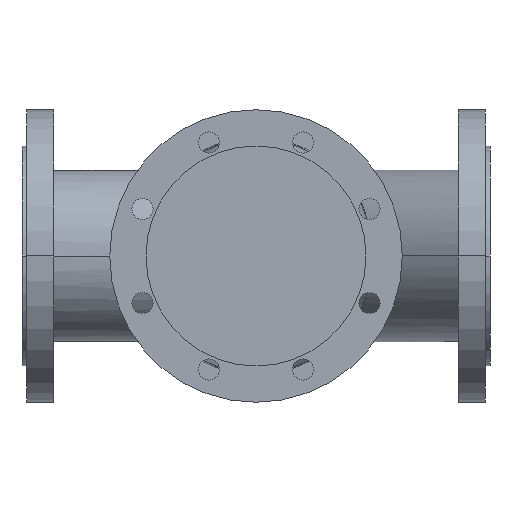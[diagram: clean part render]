
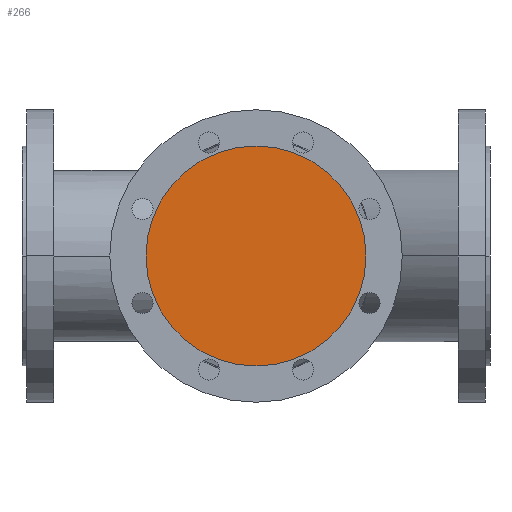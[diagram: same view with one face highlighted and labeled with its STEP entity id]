
A CAD part, front view. The second image highlights one B-rep face of the part: STEP entity #266.
In plain terms, the highlighted planar face has unit normal (0, -1, 0).
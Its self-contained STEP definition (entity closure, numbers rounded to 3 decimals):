
#266 = ADVANCED_FACE( '', ( #734 ), #735, .T. );
#734 = FACE_OUTER_BOUND( '', #1343, .T. );
#735 = PLANE( '', #1344 );
#1343 = EDGE_LOOP( '', ( #2752, #2753 ) );
#1344 = AXIS2_PLACEMENT_3D( '', #2754, #2755, #2756 );
#2752 = ORIENTED_EDGE( '', *, *, #3828, .F. );
#2753 = ORIENTED_EDGE( '', *, *, #4170, .F. );
#2754 = CARTESIAN_POINT( '', ( 247., -200., 0. ) );
#2755 = DIRECTION( '', ( 0., -1., 0. ) );
#2756 = DIRECTION( '', ( -1., 0., 0. ) );
#3828 = EDGE_CURVE( '', #4553, #4556, #4557, .T. );
#4170 = EDGE_CURVE( '', #4556, #4553, #5120, .T. );
#4553 = VERTEX_POINT( '', #5908 );
#4556 = VERTEX_POINT( '', #5912 );
#4557 = CIRCLE( '', #5913, 94. );
#5120 = CIRCLE( '', #7223, 94. );
#5908 = CARTESIAN_POINT( '', ( 294., -200., 0. ) );
#5912 = CARTESIAN_POINT( '', ( 106., -200., 0. ) );
#5913 = AXIS2_PLACEMENT_3D( '', #8039, #8040, #8041 );
#7223 = AXIS2_PLACEMENT_3D( '', #8731, #8732, #8733 );
#8039 = CARTESIAN_POINT( '', ( 200., -200., 0. ) );
#8040 = DIRECTION( '', ( 0., 1., 0. ) );
#8041 = DIRECTION( '', ( 1., 0., 0. ) );
#8731 = CARTESIAN_POINT( '', ( 200., -200., 0. ) );
#8732 = DIRECTION( '', ( 0., 1., 0. ) );
#8733 = DIRECTION( '', ( 1., 0., 0. ) );
